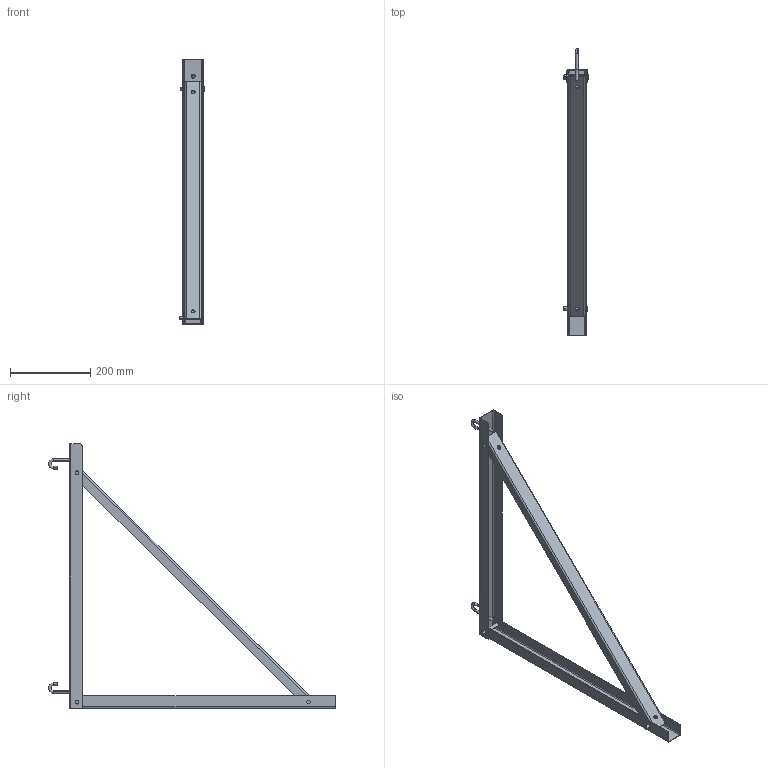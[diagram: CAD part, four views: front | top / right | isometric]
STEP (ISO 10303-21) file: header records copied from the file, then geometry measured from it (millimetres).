
FILE_DESCRIPTION (( 'STEP AP203' ), '1' );
FILE_NAME ('lmtsb24b.STEP', '2008-02-22T14:26:09', ( '' ), ( '' ), 'SwSTEP 2.0', 'SolidWorks 2007', '' );
FILE_SCHEMA (( 'CONFIG_CONTROL_DESIGN' ));
Length unit declared in the file: inch
Products named in the file (6): Back_24in; Top_24in; Support_24in; lmtsb24b; Pin; JHook
Assembly tree (8 placements, depth 2):
  lmtsb24b
    Pin  x3
    Support_24in
    Top_24in
    JHook  x2
    Back_24in
Bounding box: 62.48 x 715.72 x 660.4 mm (x, y, z)
Volume: 402288.7 mm3; surface area: 439729.8 mm2
Topology: 8 solids, 8 shells, 127 faces, 324 edges, 216 vertices
Faces by surface type: cylinder 76, plane 47, torus 4
Entity records: 4098 total; most frequent: CARTESIAN_POINT 646, DIRECTION 612, ORIENTED_EDGE 540, EDGE_CURVE 270, AXIS2_PLACEMENT_3D 234, VERTEX_POINT 180, VECTOR 144, LINE 144
